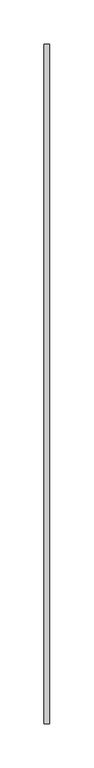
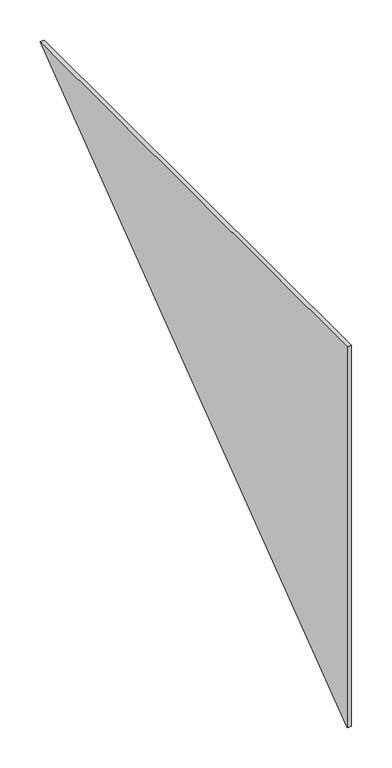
"""IFC4 building model written with IfcOpenShell, lengths in millimetres: beam geometry,  199008 :  199008."""

from ifc_helpers import new_model, si_unit, frame, origin, place, context, project, spatial, polyline, outline, extrude, source, transform, mapped, element, save


def beam_7f15aa8c(model_context):
    return source(origin(), model_context, "Body", "SweptSolid", [
        extrude(outline(polyline([(-33781.0, 6850.3937869), (-33781.0, 7430.14), (-33015.663425, 7430.14), (-33781.0, 6850.3937869)])), frame((5.9999999, 0.0, 0.0), z_axis=(1.0, 0.0, 0.0), x_axis=(0.0, 1.0, 0.0)), (0.0, 0.0, 1.0), 6.0),
    ])


if __name__ == "__main__":
    model = new_model("IFC4")
    model_context = context("Model", 3, world=origin())
    ifc_project = project(units=[si_unit("LENGTHUNIT", "METRE", prefix="MILLI")], contexts=[model_context])
    site = spatial("IfcSite", under=ifc_project)
    building = spatial("IfcBuilding", under=site)
    placement = place(None, origin())
    beam_shape = beam_7f15aa8c(model_context)
    element("IfcBeam", 1, ObjectType=" 199008 :  199008", at=placement, inside=building, context=model_context, shape_type="MappedRepresentation", body=[
        mapped(beam_shape, transform((0.0, 0.0, 0.0), x_axis=(1.0, 0.0, 0.0), y_axis=(0.0, 1.0, 0.0), z_axis=(0.0, 0.0, 1.0))),
    ])
    save(model, "model.ifc")
